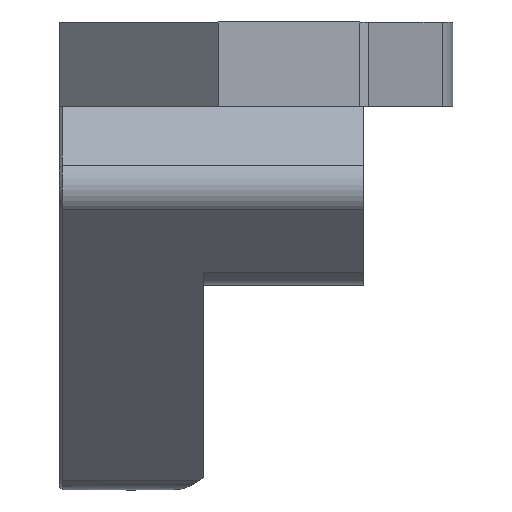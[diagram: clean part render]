
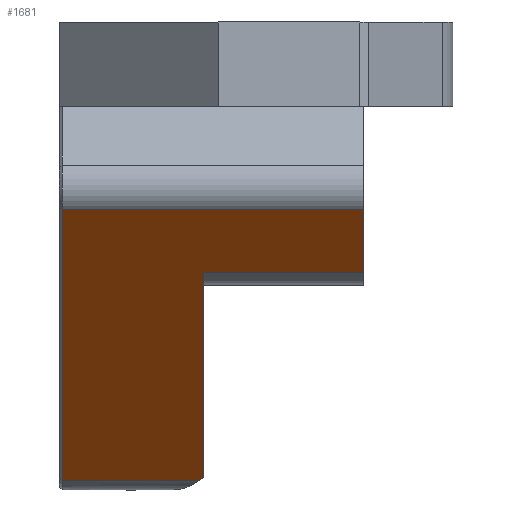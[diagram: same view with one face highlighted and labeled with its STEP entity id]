
A CAD part, left-side view. The second image highlights one B-rep face of the part: STEP entity #1681.
In plain terms, the highlighted planar face has unit normal (-0.707, 0, -0.707).
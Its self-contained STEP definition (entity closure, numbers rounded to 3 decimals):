
#16=ELLIPSE('',#1804,16.546,11.7);
#82=PLANE('',#1803);
#207=FACE_OUTER_BOUND('',#311,.T.);
#311=EDGE_LOOP('',(#1340,#1341,#1342,#1343,#1344,#1345,#1346));
#455=LINE('',#2678,#589);
#507=LINE('',#2863,#641);
#509=LINE('',#3277,#643);
#510=LINE('',#3280,#644);
#511=LINE('',#3282,#645);
#512=LINE('',#3283,#646);
#589=VECTOR('',#1929,10.);
#641=VECTOR('',#2075,10.);
#643=VECTOR('',#2083,10.);
#644=VECTOR('',#2086,10.);
#645=VECTOR('',#2087,10.);
#646=VECTOR('',#2088,10.);
#737=VERTEX_POINT('',#2675);
#738=VERTEX_POINT('',#2677);
#805=VERTEX_POINT('',#2854);
#806=VERTEX_POINT('',#2856);
#832=VERTEX_POINT('',#3276);
#833=VERTEX_POINT('',#3278);
#834=VERTEX_POINT('',#3281);
#912=EDGE_CURVE('',#737,#738,#455,.T.);
#997=EDGE_CURVE('',#806,#805,#507,.T.);
#1030=EDGE_CURVE('',#805,#832,#509,.T.);
#1031=EDGE_CURVE('',#806,#833,#16,.T.);
#1032=EDGE_CURVE('',#833,#738,#510,.T.);
#1033=EDGE_CURVE('',#834,#737,#511,.T.);
#1034=EDGE_CURVE('',#832,#834,#512,.T.);
#1340=ORIENTED_EDGE('',*,*,#1030,.F.);
#1341=ORIENTED_EDGE('',*,*,#997,.F.);
#1342=ORIENTED_EDGE('',*,*,#1031,.T.);
#1343=ORIENTED_EDGE('',*,*,#1032,.T.);
#1344=ORIENTED_EDGE('',*,*,#912,.F.);
#1345=ORIENTED_EDGE('',*,*,#1033,.F.);
#1346=ORIENTED_EDGE('',*,*,#1034,.F.);
#1681=ADVANCED_FACE('',(#207),#82,.T.);
#1803=AXIS2_PLACEMENT_3D('',#3275,#2081,#2082);
#1804=AXIS2_PLACEMENT_3D('',#3279,#2084,#2085);
#1929=DIRECTION('',(0.,1.,0.));
#2075=DIRECTION('',(0.,1.,0.));
#2081=DIRECTION('center_axis',(-0.707,0.,
-0.707));
#2082=DIRECTION('ref_axis',(0.707,0.,-0.707));
#2083=DIRECTION('',(-0.707,0.,0.707));
#2084=DIRECTION('center_axis',(0.707,0.,0.707));
#2085=DIRECTION('ref_axis',(0.707,0.,-0.707));
#2086=DIRECTION('',(-0.707,0.,0.707));
#2087=DIRECTION('',(0.707,0.,-0.707));
#2088=DIRECTION('',(0.,-1.,0.));
#2675=CARTESIAN_POINT('',(8.775,31.62,12.237));
#2677=CARTESIAN_POINT('',(8.775,42.458,12.237));
#2678=CARTESIAN_POINT('',(8.775,46.636,12.237));
#2854=CARTESIAN_POINT('',(22.898,52.008,-1.887));
#2856=CARTESIAN_POINT('',(22.898,42.745,-1.887));
#2863=CARTESIAN_POINT('',(22.898,50.261,-1.887));
#3275=CARTESIAN_POINT('Origin',(4.55,51.908,16.462));
#3276=CARTESIAN_POINT('',(4.55,52.008,16.462));
#3277=CARTESIAN_POINT('',(10.867,52.008,10.145));
#3278=CARTESIAN_POINT('',(22.698,42.458,-1.687));
#3279=CARTESIAN_POINT('Origin',(32.397,35.913,-11.385));
#3280=CARTESIAN_POINT('',(6.651,42.458,14.36));
#3281=CARTESIAN_POINT('',(4.55,31.62,16.462));
#3282=CARTESIAN_POINT('',(10.867,31.62,10.145));
#3283=CARTESIAN_POINT('',(4.55,40.858,16.462));
